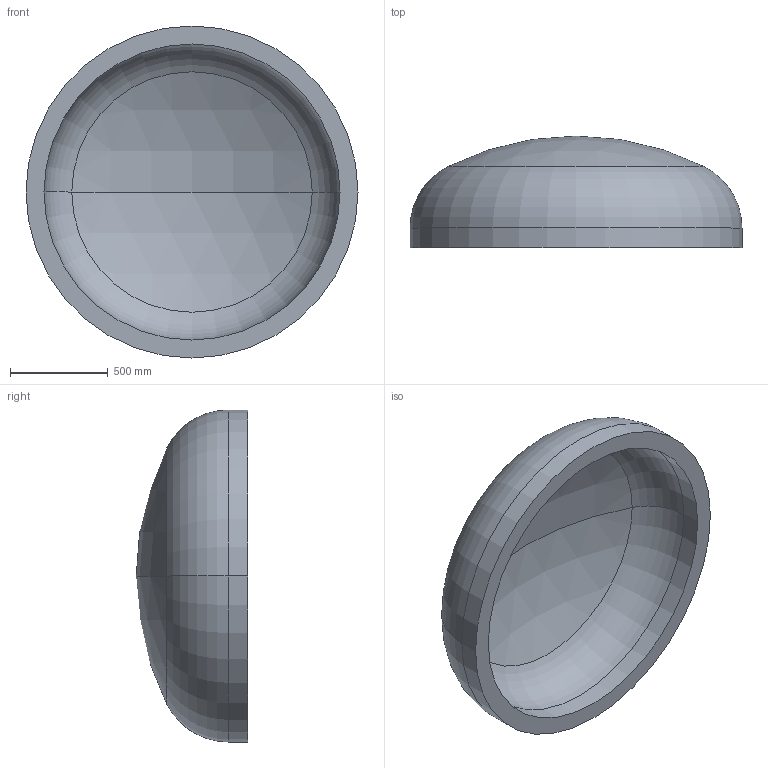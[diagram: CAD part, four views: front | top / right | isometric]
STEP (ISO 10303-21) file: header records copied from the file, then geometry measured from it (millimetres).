
FILE_DESCRIPTION (( 'STEP AP203' ), '1' );
FILE_NAME ('DIN 28013 Korbbogenform_-_Boden DIN 28013 - 1700 x 100 - I - s=92.step', '2016-07-01T12:05:59', ( '' ), ( '' ), 'SwSTEP 2.0', 'SolidWorks 2013', '' );
FILE_SCHEMA (( 'CONFIG_CONTROL_DESIGN' ));
Length unit declared in the file: millimetre
Products named in the file (1): DIN 28013 Korbbogenform_-_Boden DIN 28013 - 1700 x 100 - I - s=92
Bounding box: 1700 x 571.19 x 1700 mm (x, y, z)
Volume: 315942418.8 mm3; surface area: 7350793.3 mm2
Topology: 1 solids, 1 shells, 13 faces, 24 edges, 14 vertices
Faces by surface type: torus 4, cylinder 4, sphere 4, plane 1
Entity records: 407 total; most frequent: DIRECTION 72, CARTESIAN_POINT 52, ORIENTED_EDGE 48, AXIS2_PLACEMENT_3D 34, EDGE_CURVE 24, CIRCLE 20, EDGE_LOOP 14, VERTEX_POINT 14
